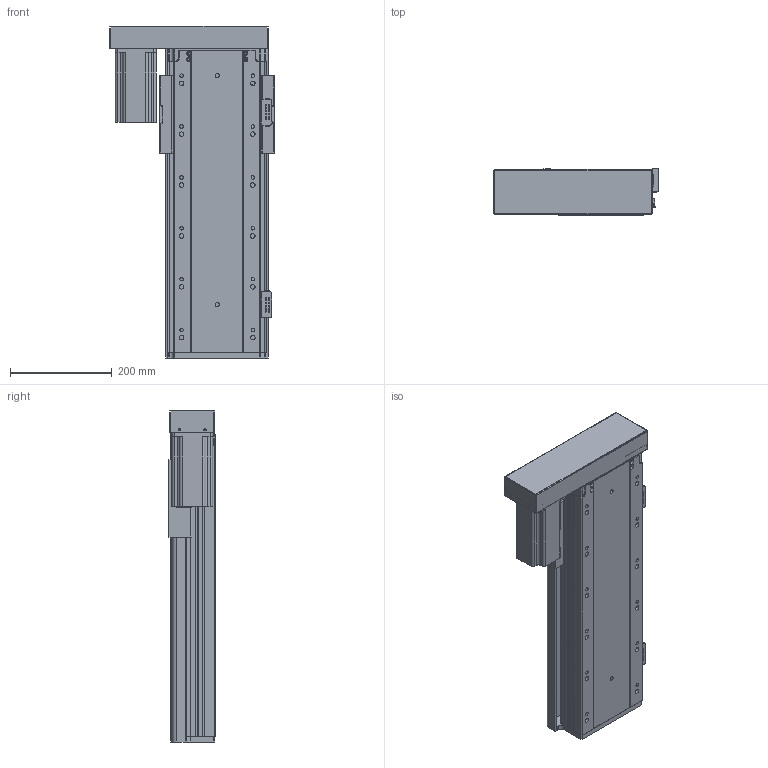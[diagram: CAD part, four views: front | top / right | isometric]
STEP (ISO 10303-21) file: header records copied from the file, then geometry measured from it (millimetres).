
FILE_DESCRIPTION (( 'STEP AP203' ), '1' );
FILE_NAME ('RY170FB-L2020-300-LK.SLDASM_350.step', '2021-02-23T03:02:24', ( '盈信电脑' ), ( '东莞市道滘镇水果街19号' ), 'SwSTEP 2.0', 'SolidWorks 2012', '' );
FILE_SCHEMA (( 'CONFIG_CONTROL_DESIGN' ));
Length unit declared in the file: millimetre
Products named in the file (16): RY170FB-L2020-300-LK.SLDASM_350; RY140FB-674嫖萇覜茼え; RY140-674嫖萇耀輸; RY170FB-酘衵殏萇儂欶750W; RY170FB-左右折电机安装板750W; RY170FB-300蛌殏奻裔-LK_350; 覜茼ん674; RY140直线电机感应器674光电安装座; RY170FB-铝滑块(25丝杆）; RY170FB-綴裔啣; 怢湛750W萇儂ㄗ80遺ㄘ; RY170FB-300蛌殏倰第菁釱-LK_350; 滅袉蝶18-28; 滅袉蝶18-10; RY170FB-转折电机端支撑座(7002)
Assembly tree (18 placements, depth 3):
  RY170FB-L2020-300-LK.SLDASM_350
    RY170FB-300蛌殏倰第菁釱-LK_350
    滅袉蝶18-28
    滅袉蝶18-10
    RY170FB-转折电机端支撑座(7002)
    怢湛750W萇儂ㄗ80遺ㄘ
    RY170FB-铝滑块(25丝杆）
    RY170FB-綴裔啣
    RY170FB-300蛌殏奻裔-LK_350
    RY140-674嫖萇耀輸
      覜茼ん674  x2
      RY140直线电机感应器674光电安装座
    RY140-674嫖萇耀輸
      覜茼ん674
      RY140直线电机感应器674光电安装座
    RY140FB-674嫖萇覜茼え
    RY170FB-左右折电机安装板750W
    RY170FB-酘衵殏萇儂欶750W
Bounding box: 323.95 x 90.5 x 652.7 mm (x, y, z)
Volume: 4934210.3 mm3; surface area: 1371281.2 mm2
Topology: 16 solids, 16 shells, 1493 faces, 4210 edges, 2684 vertices
Faces by surface type: cylinder 765, plane 588, cone 132, bspline 8
Entity records: 46887 total; most frequent: CARTESIAN_POINT 10917, ORIENTED_EDGE 7208, DIRECTION 7076, EDGE_CURVE 3604, AXIS2_PLACEMENT_3D 2565, VERTEX_POINT 2364, VECTOR 1946, LINE 1946
